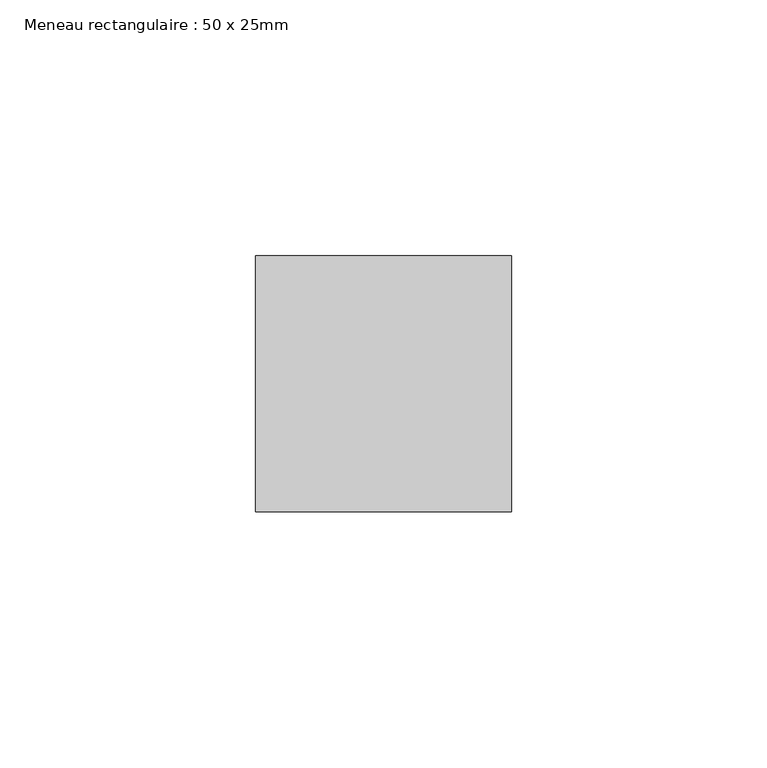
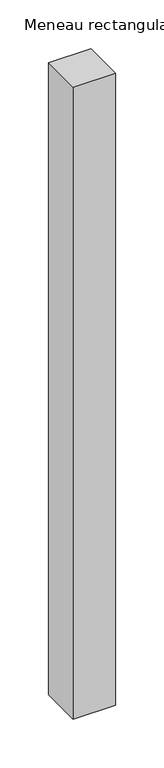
"""IFC4 building model written with IfcOpenShell, lengths in millimetres: member geometry, Meneau rectangulaire : 50 x 25mm."""

from ifc_helpers import new_model, si_unit, frame, origin, place, context, project, spatial, polyline, outline, extrude, source, transform, mapped, element, save


def meneau_rectangulaire_50_x_25mm_88e27f49(model_context):
    return source(origin(), model_context, "Body", "SweptSolid", [
        extrude(outline(polyline([(0.0, 0.0), (0.0, -50.0), (-50.0, -50.0), (-50.0, 0.0), (0.0, 0.0)])), frame((0.0, 0.0, -789.3690229), z_axis=(0.0, 0.0, 1.0), x_axis=(1.0, 0.0, 0.0)), (0.0, 0.0, 1.0), 789.3690229),
    ])


if __name__ == "__main__":
    model = new_model("IFC4")
    model_context = context("Model", 3, world=origin())
    ifc_project = project(units=[si_unit("LENGTHUNIT", "METRE", prefix="MILLI")], contexts=[model_context])
    site = spatial("IfcSite", under=ifc_project)
    building = spatial("IfcBuilding", under=site)
    placement = place(None, origin())
    meneau_rectangulaire_50_x_25mm_shape = meneau_rectangulaire_50_x_25mm_88e27f49(model_context)
    element("IfcMember", 1, ObjectType="Meneau rectangulaire : 50 x 25mm", at=placement, inside=building, context=model_context, shape_type="MappedRepresentation", body=[
        mapped(meneau_rectangulaire_50_x_25mm_shape, transform((0.0, 0.0, 0.0), x_axis=(1.0, 0.0, 0.0), y_axis=(0.0, 1.0, 0.0), z_axis=(0.0, 0.0, 1.0))),
    ])
    save(model, "model.ifc")
